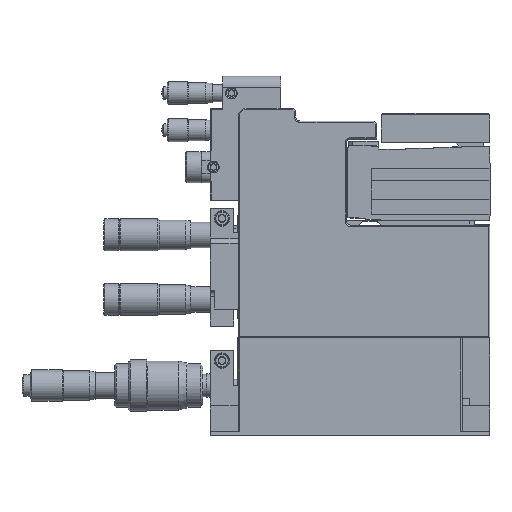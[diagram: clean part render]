
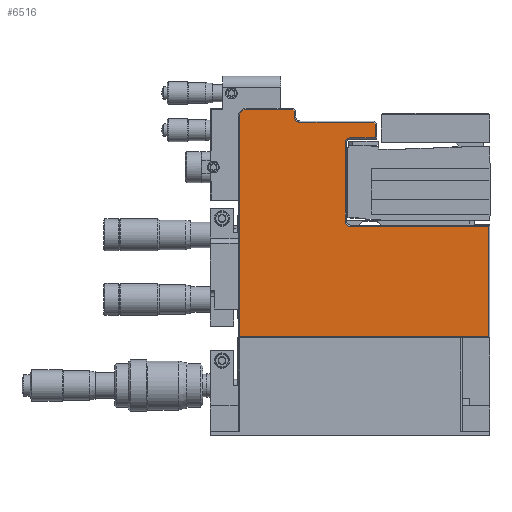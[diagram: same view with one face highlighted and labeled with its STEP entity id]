
A CAD part, top view. The second image highlights one B-rep face of the part: STEP entity #6516.
In plain terms, the highlighted planar face has unit normal (0, 0, 1).
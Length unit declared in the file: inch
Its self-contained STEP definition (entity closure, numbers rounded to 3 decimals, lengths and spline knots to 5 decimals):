
#2740=EDGE_CURVE('P5A-D-MMMM-HN-I[2]',#9014,#9015,#9016,.T.);
#3143=EDGE_CURVE('P5A-D-MMMM-HN-I[2]',#9692,#9693,#9694,.T.);
#4052=EDGE_CURVE('P5A-D-MMMM-HN-I[2]',#11128,#10076,#11129,.T.);
#4068=EDGE_CURVE('P5A-D-MMMM-HN-I[2]',#11154,#11155,#11156,.F.);
#4174=EDGE_CURVE('P5A-D-MMMM-HN-I[2]',#9015,#11316,#11317,.T.);
#4513=EDGE_CURVE('P5A-D-MMMM-HN-I[2]',#11316,#10858,#11807,.T.);
#5470=EDGE_CURVE('P5A-D-MMMM-HN-I[2]',#9693,#12762,#13159,.T.);
#5676=EDGE_CURVE('P5A-D-MMMM-HN-I[2]',#11155,#9692,#13435,.F.);
#5720=EDGE_CURVE('P5A-D-MMMM-HN-I[2]',#11458,#9014,#13493,.T.);
#6096=EDGE_CURVE('P5A-D-MMMM-HN-I[2]',#13976,#9703,#13977,.T.);
#6516=ADVANCED_FACE('P5A-D-MMMM-HN-I[2]',(#14519),#14520,.T.);
#7136=EDGE_CURVE('P5A-D-MMMM-HN-I[2]',#10076,#15314,#15315,.T.);
#7270=EDGE_CURVE('P5A-D-MMMM-HN-I[2]',#12762,#11458,#15489,.T.);
#7315=EDGE_CURVE('P5A-D-MMMM-HN-I[2]',#15314,#10966,#15546,.T.);
#7401=EDGE_CURVE('P5A-D-MMMM-HN-I[2]',#10858,#11128,#15653,.T.);
#8424=EDGE_CURVE('P5A-D-MMMM-HN-I[2]',#10966,#9703,#16898,.T.);
#8551=EDGE_CURVE('P5A-D-MMMM-HN-I[2]',#13976,#11154,#17049,.T.);
#9014=VERTEX_POINT('',#17610);
#9015=VERTEX_POINT('',#17611);
#9016=LINE('',#17612,#17613);
#9692=VERTEX_POINT('',#18585);
#9693=VERTEX_POINT('',#18586);
#9694=LINE('',#18587,#18588);
#9703=VERTEX_POINT('',#18600);
#10076=VERTEX_POINT('',#19174);
#10858=VERTEX_POINT('',#20301);
#10966=VERTEX_POINT('',#20455);
#11128=VERTEX_POINT('',#20684);
#11129=LINE('',#20685,#20686);
#11154=VERTEX_POINT('',#20720);
#11155=VERTEX_POINT('',#20721);
#11156=CIRCLE('',#20722,0.11);
#11316=VERTEX_POINT('',#20954);
#11317=LINE('',#20955,#20956);
#11458=VERTEX_POINT('',#21173);
#11807=LINE('',#21715,#21716);
#12762=VERTEX_POINT('',#23207);
#13159=LINE('',#23822,#23823);
#13435=LINE('',#24243,#24244);
#13493=LINE('',#24345,#24346);
#13976=VERTEX_POINT('',#25107);
#13977=LINE('',#25108,#25109);
#14519=FACE_OUTER_BOUND('',#25984,.T.);
#14520=PLANE('',#25985);
#15314=VERTEX_POINT('',#27251);
#15315=CIRCLE('',#27252,0.085);
#15489=CIRCLE('',#27500,0.085);
#15546=LINE('',#27585,#27586);
#15653=CIRCLE('',#27757,0.085);
#16898=LINE('',#29845,#29846);
#17049=LINE('',#30119,#30120);
#17610=CARTESIAN_POINT('',(-2.87328,-0.645,0.875));
#17611=CARTESIAN_POINT('',(-2.845,-0.67328,0.875));
#17612=CARTESIAN_POINT('',(-2.31539,-1.20289,0.875));
#17613=VECTOR('',#30918,1.0);
#18585=CARTESIAN_POINT('',(-4.17328,-0.44,0.875));
#18586=CARTESIAN_POINT('',(-4.145,-0.46828,0.875));
#18587=CARTESIAN_POINT('',(-3.23914,-1.37414,0.875));
#18588=VECTOR('',#31651,1.0);
#18600=CARTESIAN_POINT('',(-1.02,-4.1,0.875));
#19174=CARTESIAN_POINT('',(-3.33,-2.235,0.875));
#20301=CARTESIAN_POINT('',(-3.245,-0.895,0.875));
#20455=CARTESIAN_POINT('',(-1.02,-2.32,0.875));
#20684=CARTESIAN_POINT('',(-3.33,-0.98,0.875));
#20685=CARTESIAN_POINT('',(-3.33,-2.29125,0.875));
#20686=VECTOR('',#33073,1.0);
#20720=CARTESIAN_POINT('',(-5.03,-0.55,0.875));
#20721=CARTESIAN_POINT('',(-4.92,-0.44,0.875));
#20722=AXIS2_PLACEMENT_3D('',#33098,#33099,#33100);
#20954=CARTESIAN_POINT('',(-2.845,-0.895,0.875));
#20955=CARTESIAN_POINT('',(-2.845,-1.875,0.875));
#20956=VECTOR('',#33286,1.0);
#21173=CARTESIAN_POINT('',(-4.06,-0.645,0.875));
#21715=CARTESIAN_POINT('',(-3.02375,-0.895,0.875));
#21716=VECTOR('',#33840,1.0);
#23207=CARTESIAN_POINT('',(-4.145,-0.56,0.875));
#23822=CARTESIAN_POINT('',(-4.145,-1.74875,0.875));
#23823=VECTOR('',#35380,1.0);
#24243=CARTESIAN_POINT('',(-3.025,-0.44,0.875));
#24244=VECTOR('',#35754,1.0);
#24345=CARTESIAN_POINT('',(-3.225,-0.645,0.875));
#24346=VECTOR('',#35794,1.0);
#25107=CARTESIAN_POINT('',(-5.03,-4.1,0.875));
#25108=CARTESIAN_POINT('',(-3.025,-4.1,0.875));
#25109=VECTOR('',#36312,1.0);
#25984=EDGE_LOOP('',(#36999,#37000,#37001,#37002,#37003,#37004,#37005,#37006,#37007,#37008,#37009,#37010,#37011,#37012,#37013,#37014));
#25985=AXIS2_PLACEMENT_3D('',#37015,#37016,#37017);
#27251=CARTESIAN_POINT('',(-3.245,-2.32,0.875));
#27252=AXIS2_PLACEMENT_3D('',#37937,#37938,#37939);
#27500=AXIS2_PLACEMENT_3D('',#38171,#38172,#38173);
#27585=CARTESIAN_POINT('',(-2.07125,-2.32,0.875));
#27586=VECTOR('',#38260,1.0);
#27757=AXIS2_PLACEMENT_3D('',#38409,#38410,#38411);
#29845=CARTESIAN_POINT('',(-1.02,-3.485,0.875));
#29846=VECTOR('',#39933,1.0);
#30119=CARTESIAN_POINT('',(-5.03,-1.73232,0.875));
#30120=VECTOR('',#40123,1.0);
#30918=DIRECTION('',(0.707,-0.707,0.0));
#31651=DIRECTION('',(0.707,-0.707,0.0));
#33073=DIRECTION('',(0.0,-1.0,0.0));
#33098=CARTESIAN_POINT('',(-4.92,-0.55,0.875));
#33099=DIRECTION('',(0.0,0.0,1.0));
#33100=DIRECTION('',(-0.707,0.707,0.0));
#33286=DIRECTION('',(0.0,-1.0,0.0));
#33840=DIRECTION('',(-1.0,0.0,0.0));
#35380=DIRECTION('',(0.0,-1.0,-0.0));
#35754=DIRECTION('',(-1.0,0.0,0.0));
#35794=DIRECTION('',(1.0,0.0,0.0));
#36312=DIRECTION('',(1.0,0.0,0.0));
#36999=ORIENTED_EDGE('',*,*,#5676,.F.);
#37000=ORIENTED_EDGE('',*,*,#4068,.F.);
#37001=ORIENTED_EDGE('',*,*,#8551,.F.);
#37002=ORIENTED_EDGE('',*,*,#6096,.T.);
#37003=ORIENTED_EDGE('',*,*,#8424,.F.);
#37004=ORIENTED_EDGE('',*,*,#7315,.F.);
#37005=ORIENTED_EDGE('',*,*,#7136,.F.);
#37006=ORIENTED_EDGE('',*,*,#4052,.F.);
#37007=ORIENTED_EDGE('',*,*,#7401,.F.);
#37008=ORIENTED_EDGE('',*,*,#4513,.F.);
#37009=ORIENTED_EDGE('',*,*,#4174,.F.);
#37010=ORIENTED_EDGE('',*,*,#2740,.F.);
#37011=ORIENTED_EDGE('',*,*,#5720,.F.);
#37012=ORIENTED_EDGE('',*,*,#7270,.F.);
#37013=ORIENTED_EDGE('',*,*,#5470,.F.);
#37014=ORIENTED_EDGE('',*,*,#3143,.F.);
#37015=CARTESIAN_POINT('',(-3.025,-3.0,0.875));
#37016=DIRECTION('',(0.0,0.0,1.0));
#37017=DIRECTION('',(0.0,-1.0,0.0));
#37937=CARTESIAN_POINT('',(-3.245,-2.235,0.875));
#37938=DIRECTION('',(0.0,0.0,1.0));
#37939=DIRECTION('',(-0.707,-0.707,0.0));
#38171=CARTESIAN_POINT('',(-4.06,-0.56,0.875));
#38172=DIRECTION('',(0.0,0.0,1.0));
#38173=DIRECTION('',(-0.707,-0.707,0.0));
#38260=DIRECTION('',(1.0,0.0,0.0));
#38409=CARTESIAN_POINT('',(-3.245,-0.98,0.875));
#38410=DIRECTION('',(0.0,0.0,1.0));
#38411=DIRECTION('',(-0.707,0.707,0.0));
#39933=DIRECTION('',(0.0,-1.0,-0.0));
#40123=DIRECTION('',(0.0,1.0,0.0));
